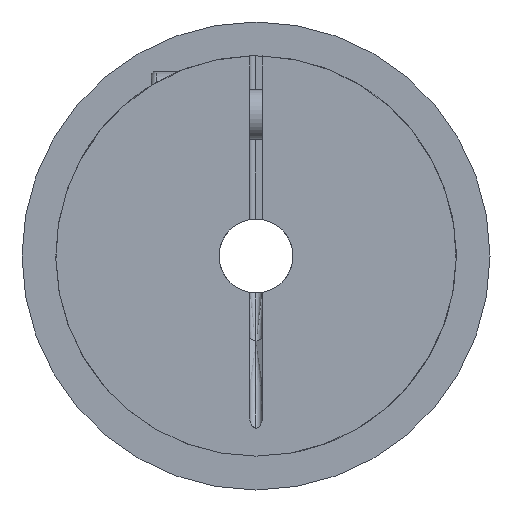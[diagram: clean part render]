
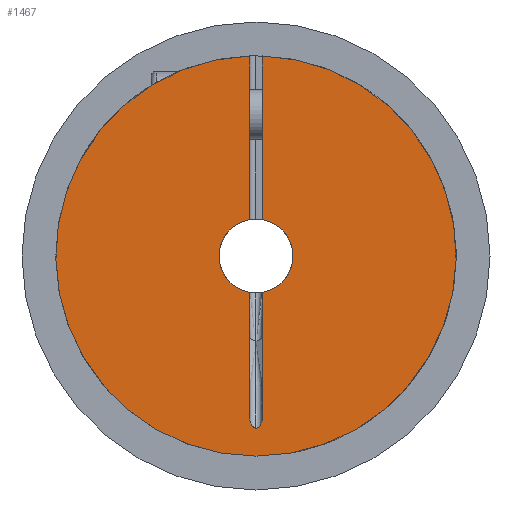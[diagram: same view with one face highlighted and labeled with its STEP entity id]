
A CAD part, left-side view. The second image highlights one B-rep face of the part: STEP entity #1467.
In plain terms, the highlighted planar face has unit normal (-1, 0, 0).
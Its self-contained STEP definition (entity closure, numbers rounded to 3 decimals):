
#9 = VECTOR ( 'NONE', #2504, 1000. ) ;
#50 = EDGE_CURVE ( 'NONE', #1777, #2369, #2141, .T. ) ;
#65 = EDGE_CURVE ( 'NONE', #3048, #2369, #2362, .T. ) ;
#72 = DIRECTION ( 'NONE',  ( -1., 0., 0. ) ) ;
#93 = B_SPLINE_CURVE_WITH_KNOTS ( 'NONE', 3,
 ( #1255, #2232, #492, #1492, #2489, #1694, #1503, #201, #963, #1744 ),
 .UNSPECIFIED., .F., .F.,
 ( 4, 2, 2, 2, 4 ),
 ( 0., 0., 0., 0.001, 0.001 ),
 .UNSPECIFIED. ) ;
#145 = VERTEX_POINT ( 'NONE', #243 ) ;
#200 = CARTESIAN_POINT ( 'NONE',  ( 0., 0.5, -13.385 ) ) ;
#201 = CARTESIAN_POINT ( 'NONE',  ( 0., -0.166, -13.942 ) ) ;
#222 = ORIENTED_EDGE ( 'NONE', *, *, #2388, .F. ) ;
#243 = CARTESIAN_POINT ( 'NONE',  ( 0., 0.5, 2.958 ) ) ;
#374 = VERTEX_POINT ( 'NONE', #3094 ) ;
#390 = VERTEX_POINT ( 'NONE', #1851 ) ;
#458 = CARTESIAN_POINT ( 'NONE',  ( 0., -0.5, 0. ) ) ;
#463 = EDGE_CURVE ( 'NONE', #145, #390, #1918, .T. ) ;
#492 = CARTESIAN_POINT ( 'NONE',  ( 0., -0.491, -13.383 ) ) ;
#511 = FACE_OUTER_BOUND ( 'NONE', #848, .T. ) ;
#574 = DIRECTION ( 'NONE',  ( 0., 0., 1. ) ) ;
#624 = ORIENTED_EDGE ( 'NONE', *, *, #65, .T. ) ;
#688 = VERTEX_POINT ( 'NONE', #2371 ) ;
#707 = LINE ( 'NONE', #458, #1940 ) ;
#717 = CARTESIAN_POINT ( 'NONE',  ( 0., 0.5, -13.218 ) ) ;
#800 = AXIS2_PLACEMENT_3D ( 'NONE', #2750, #1516, #3028 ) ;
#837 = DIRECTION ( 'NONE',  ( 0., 0., 1. ) ) ;
#848 = EDGE_LOOP ( 'NONE', ( #948, #222, #2919, #2010, #2018, #1792, #2878, #1050, #2887, #624 ) ) ;
#882 = EDGE_CURVE ( 'NONE', #145, #1057, #955, .T. ) ;
#884 = DIRECTION ( 'NONE',  ( 0., 0., 1. ) ) ;
#917 = CARTESIAN_POINT ( 'NONE',  ( 0., -0.5, 0. ) ) ;
#948 = ORIENTED_EDGE ( 'NONE', *, *, #50, .F. ) ;
#955 = CIRCLE ( 'NONE', #2144, 3. ) ;
#963 = CARTESIAN_POINT ( 'NONE',  ( 0., -0.085, -13.976 ) ) ;
#964 = AXIS2_PLACEMENT_3D ( 'NONE', #3128, #3143, #884 ) ;
#1049 = CIRCLE ( 'NONE', #1214, 3. ) ;
#1050 = ORIENTED_EDGE ( 'NONE', *, *, #463, .T. ) ;
#1057 = VERTEX_POINT ( 'NONE', #1647 ) ;
#1068 = B_SPLINE_CURVE_WITH_KNOTS ( 'NONE', 3,
 ( #2428, #1693, #2413, #1725, #2478, #2973, #200, #717 ),
 .UNSPECIFIED., .F., .F.,
 ( 4, 2, 2, 4 ),
 ( 0., 0., 0., 0.001 ),
 .UNSPECIFIED. ) ;
#1138 = EDGE_CURVE ( 'NONE', #1540, #374, #1068, .T. ) ;
#1155 = DIRECTION ( 'NONE',  ( 0., 0., 1. ) ) ;
#1214 = AXIS2_PLACEMENT_3D ( 'NONE', #1482, #2475, #3227 ) ;
#1222 = CIRCLE ( 'NONE', #2576, 16.25 ) ;
#1255 = CARTESIAN_POINT ( 'NONE',  ( 0., -0.5, -13.218 ) ) ;
#1423 = DIRECTION ( 'NONE',  ( 0., 0., 1. ) ) ;
#1467 = ADVANCED_FACE ( 'NONE', ( #511 ), #1743, .F. ) ;
#1477 = CARTESIAN_POINT ( 'NONE',  ( 0., 0., 0. ) ) ;
#1482 = CARTESIAN_POINT ( 'NONE',  ( 0., 0., 0. ) ) ;
#1492 = CARTESIAN_POINT ( 'NONE',  ( 0., -0.455, -13.545 ) ) ;
#1503 = CARTESIAN_POINT ( 'NONE',  ( 0., -0.297, -13.839 ) ) ;
#1516 = DIRECTION ( 'NONE',  ( 1., 0., 0. ) ) ;
#1535 = VECTOR ( 'NONE', #1155, 1000. ) ;
#1537 = VECTOR ( 'NONE', #1423, 1000. ) ;
#1540 = VERTEX_POINT ( 'NONE', #1855 ) ;
#1578 = EDGE_CURVE ( 'NONE', #390, #3048, #1222, .T. ) ;
#1647 = CARTESIAN_POINT ( 'NONE',  ( 0., 0.5, -2.958 ) ) ;
#1693 = CARTESIAN_POINT ( 'NONE',  ( 0., 0.085, -13.976 ) ) ;
#1694 = CARTESIAN_POINT ( 'NONE',  ( 0., -0.349, -13.771 ) ) ;
#1725 = CARTESIAN_POINT ( 'NONE',  ( 0., 0.297, -13.839 ) ) ;
#1743 = PLANE ( 'NONE',  #800 ) ;
#1744 = CARTESIAN_POINT ( 'NONE',  ( 0., 0., -13.976 ) ) ;
#1777 = VERTEX_POINT ( 'NONE', #1786 ) ;
#1786 = CARTESIAN_POINT ( 'NONE',  ( 0., -0.5, 2.958 ) ) ;
#1792 = ORIENTED_EDGE ( 'NONE', *, *, #1796, .T. ) ;
#1796 = EDGE_CURVE ( 'NONE', #374, #1057, #3043, .T. ) ;
#1851 = CARTESIAN_POINT ( 'NONE',  ( 0., 0.5, 16.242 ) ) ;
#1855 = CARTESIAN_POINT ( 'NONE',  ( 0., 0., -13.976 ) ) ;
#1918 = LINE ( 'NONE', #2674, #1537 ) ;
#1940 = VECTOR ( 'NONE', #2136, 1000. ) ;
#2010 = ORIENTED_EDGE ( 'NONE', *, *, #2964, .T. ) ;
#2015 = CARTESIAN_POINT ( 'NONE',  ( 0., 0.5, 0. ) ) ;
#2018 = ORIENTED_EDGE ( 'NONE', *, *, #1138, .T. ) ;
#2136 = DIRECTION ( 'NONE',  ( 0., 0., 1. ) ) ;
#2141 = LINE ( 'NONE', #917, #1535 ) ;
#2144 = AXIS2_PLACEMENT_3D ( 'NONE', #1477, #2470, #837 ) ;
#2232 = CARTESIAN_POINT ( 'NONE',  ( 0., -0.5, -13.301 ) ) ;
#2362 = CIRCLE ( 'NONE', #964, 16.25 ) ;
#2369 = VERTEX_POINT ( 'NONE', #2971 ) ;
#2371 = CARTESIAN_POINT ( 'NONE',  ( 0., -0.5, -13.218 ) ) ;
#2388 = EDGE_CURVE ( 'NONE', #2555, #1777, #1049, .T. ) ;
#2413 = CARTESIAN_POINT ( 'NONE',  ( 0., 0.165, -13.943 ) ) ;
#2428 = CARTESIAN_POINT ( 'NONE',  ( 0., 0., -13.976 ) ) ;
#2470 = DIRECTION ( 'NONE',  ( -1., 0., 0. ) ) ;
#2475 = DIRECTION ( 'NONE',  ( -1., 0., 0. ) ) ;
#2478 = CARTESIAN_POINT ( 'NONE',  ( 0., 0.348, -13.772 ) ) ;
#2489 = CARTESIAN_POINT ( 'NONE',  ( 0., -0.427, -13.625 ) ) ;
#2504 = DIRECTION ( 'NONE',  ( 0., 0., 1. ) ) ;
#2555 = VERTEX_POINT ( 'NONE', #2933 ) ;
#2576 = AXIS2_PLACEMENT_3D ( 'NONE', #3129, #72, #574 ) ;
#2629 = EDGE_CURVE ( 'NONE', #688, #2555, #707, .T. ) ;
#2674 = CARTESIAN_POINT ( 'NONE',  ( 0., 0.5, 0. ) ) ;
#2750 = CARTESIAN_POINT ( 'NONE',  ( 0., 0., 0. ) ) ;
#2794 = CARTESIAN_POINT ( 'NONE',  ( 0., 0., -16.25 ) ) ;
#2878 = ORIENTED_EDGE ( 'NONE', *, *, #882, .F. ) ;
#2887 = ORIENTED_EDGE ( 'NONE', *, *, #1578, .T. ) ;
#2919 = ORIENTED_EDGE ( 'NONE', *, *, #2629, .F. ) ;
#2933 = CARTESIAN_POINT ( 'NONE',  ( 0., -0.5, -2.958 ) ) ;
#2964 = EDGE_CURVE ( 'NONE', #688, #1540, #93, .T. ) ;
#2971 = CARTESIAN_POINT ( 'NONE',  ( 0., -0.5, 16.242 ) ) ;
#2973 = CARTESIAN_POINT ( 'NONE',  ( 0., 0.466, -13.552 ) ) ;
#3028 = DIRECTION ( 'NONE',  ( 0., 0., -1. ) ) ;
#3043 = LINE ( 'NONE', #2015, #9 ) ;
#3048 = VERTEX_POINT ( 'NONE', #2794 ) ;
#3094 = CARTESIAN_POINT ( 'NONE',  ( 0., 0.5, -13.218 ) ) ;
#3128 = CARTESIAN_POINT ( 'NONE',  ( 0., 0., 0. ) ) ;
#3129 = CARTESIAN_POINT ( 'NONE',  ( 0., 0., 0. ) ) ;
#3143 = DIRECTION ( 'NONE',  ( -1., 0., 0. ) ) ;
#3227 = DIRECTION ( 'NONE',  ( 0., 0., 1. ) ) ;
